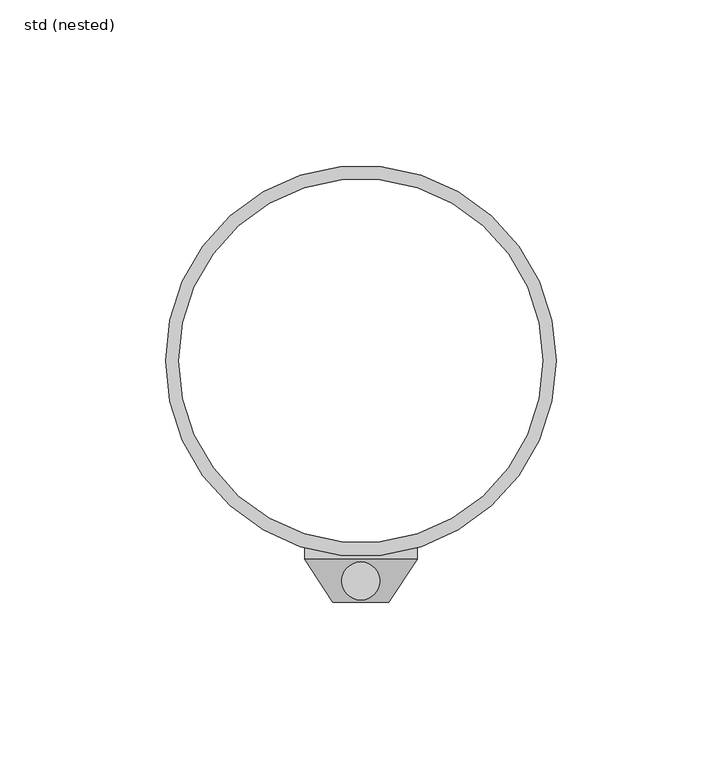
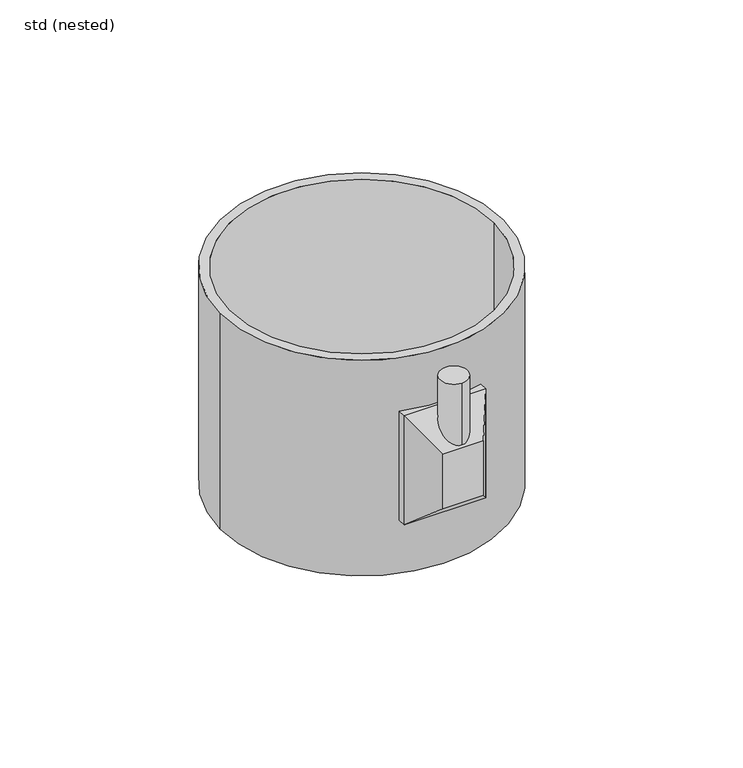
"""IFC4 building model written with IfcOpenShell, lengths in millimetres: unitary equipment geometry, ZZZ_do not use_ME_GEN_flat roof heating_ACO : std (nested)."""

import ifcopenshell
import ifcopenshell.guid

model = None  # the IFC model being written
_history = None  # IfcOwnerHistory: only IFC2X3 demands one
_inside = {}  # id of a spatial element -> (the spatial element, [elements in it])
_under = {}  # id of a project, library or spatial element -> (it, [spatial elements below it])
_declared = {}  # id of a project -> (the project, [libraries it declares])
_typed = {}  # id of a type object -> (the type object, [elements of that type])
_made_of = {}  # id of a material, layer set ... -> (it, [elements and type objects made of it])


def new_model(schema):
    """Start an empty IFC model of exactly this schema.

    Asked for "IFC4X3", IfcOpenShell would pick the latest addendum, in which some entities
    have other attributes; the version numbers below select the first issue.
    IFC2X3 requires an IfcOwnerHistory on every rooted entity: one is made here for all.
    """
    global model, _history
    if schema == "IFC4X3":
        model = ifcopenshell.file(schema_version=(4, 3, 0, 0))
    else:
        model = ifcopenshell.file(schema=schema)
    _inside.clear()
    _under.clear()
    _declared.clear()
    _typed.clear()
    _made_of.clear()
    _history = None
    if model.schema == "IFC2X3":
        org = make("IfcOrganization", Name="unknown")
        user = make(
            "IfcPersonAndOrganization",
            ThePerson=make("IfcPerson", FamilyName="unknown"),
            TheOrganization=org,
        )
        app = make(
            "IfcApplication",
            ApplicationDeveloper=org,
            Version="unknown",
            ApplicationFullName="unknown",
            ApplicationIdentifier="unknown",
        )
        _history = make(
            "IfcOwnerHistory",
            OwningUser=user,
            OwningApplication=app,
            ChangeAction="ADDED",
            CreationDate=0,
        )
    return model


def make(cls, **values):
    """One entity of the class cls with the attributes given. An attribute that is None is left unset."""
    return model.create_entity(
        cls, **{name: value for name, value in values.items() if value is not None}
    )


def rooted(cls, **values):
    """An entity with a GlobalId (a new one), such as an element, a storey or a relation."""
    return make(cls, GlobalId=ifcopenshell.guid.new(), OwnerHistory=_history, **values)


def si_unit(unit_type, name, prefix=None):
    """IfcSIUnit, for example si_unit("LENGTHUNIT", "METRE", prefix="MILLI")."""
    return make("IfcSIUnit", UnitType=unit_type, Prefix=prefix, Name=name)


def assignment(units):
    """IfcUnitAssignment: the units of a project."""
    return None if units is None else make("IfcUnitAssignment", Units=units)


def point(xyz):
    """IfcCartesianPoint."""
    return None if xyz is None else make("IfcCartesianPoint", Coordinates=xyz)


def direction(xyz):
    """IfcDirection."""
    return None if xyz is None else make("IfcDirection", DirectionRatios=xyz)


def frame(location, z_axis=None, x_axis=None):
    """IfcAxis2Placement3D, a coordinate frame: its origin and axes. An axis left out is left unset."""
    return make(
        "IfcAxis2Placement3D",
        Location=point(location),
        Axis=direction(z_axis),
        RefDirection=direction(x_axis),
    )


def frame_2d(location, x_axis=None):
    """IfcAxis2Placement2D, a coordinate frame in the plane: its origin and x axis."""
    return make(
        "IfcAxis2Placement2D", Location=point(location), RefDirection=direction(x_axis)
    )


def origin():
    """The frame at (0, 0, 0) with its axes left unset."""
    return frame((0.0, 0.0, 0.0))


def origin_2d():
    """The frame at (0, 0) in the plane with its x axis left unset."""
    return frame_2d((0.0, 0.0))


def place(relative_to, where):
    """IfcLocalPlacement: puts the frame where relative to a parent placement (None: the world)."""
    return make(
        "IfcLocalPlacement", PlacementRelTo=relative_to, RelativePlacement=where
    )


def context(
    kind, dimensions, precision=None, world=None, true_north=None, identifier=None
):
    """IfcGeometricRepresentationContext, for example the 3D "Model" context."""
    return make(
        "IfcGeometricRepresentationContext",
        ContextIdentifier=identifier,
        ContextType=kind,
        CoordinateSpaceDimension=dimensions,
        Precision=precision,
        WorldCoordinateSystem=world,
        TrueNorth=true_north,
    )


def project(units=None, contexts=None):
    """IfcProject with its units and contexts."""
    return rooted(
        "IfcProject",
        Name="project",
        RepresentationContexts=contexts,
        UnitsInContext=assignment(units),
    )


def spatial(cls, under=None, at=None, **own):
    """A site, building, storey or space (cls), placed at a placement, below another one or the project."""
    s = rooted(cls, ObjectPlacement=at, **own)
    if under is not None:
        _under.setdefault(under.id(), (under, []))[1].append(s)
    return s


def polyline(points):
    """IfcPolyline through the points."""
    return make("IfcPolyline", Points=[point(p) for p in points])


def circle_curve(where, radius):
    """IfcCircle in the frame where."""
    return make("IfcCircle", Position=where, Radius=radius)


def ellipse_curve(where, semi_axis1, semi_axis2):
    """IfcEllipse in the frame where."""
    return make(
        "IfcEllipse", Position=where, SemiAxis1=semi_axis1, SemiAxis2=semi_axis2
    )


def trimmed(basis, trim1, trim2, sense, master):
    """IfcTrimmedCurve: the piece of a basis curve between two trims."""
    return make(
        "IfcTrimmedCurve",
        BasisCurve=basis,
        Trim1=trim1,
        Trim2=trim2,
        SenseAgreement=sense,
        MasterRepresentation=master,
    )


def segment(curve, same_sense, transition):
    """IfcCompositeCurveSegment."""
    return make(
        "IfcCompositeCurveSegment",
        Transition=transition,
        SameSense=same_sense,
        ParentCurve=curve,
    )


def composite_curve(segments, self_intersect=None):
    """IfcCompositeCurve: segments joined end to end."""
    return make("IfcCompositeCurve", Segments=segments, SelfIntersect=self_intersect)


def outline(outer, holes=None, kind="AREA"):
    """IfcArbitraryClosedProfileDef: a profile drawn as a closed curve; with holes, ...WithVoids."""
    if holes is None:
        return make("IfcArbitraryClosedProfileDef", ProfileType=kind, OuterCurve=outer)
    return make(
        "IfcArbitraryProfileDefWithVoids",
        ProfileType=kind,
        OuterCurve=outer,
        InnerCurves=holes,
    )


def extrude(swept, where, along, depth):
    """IfcExtrudedAreaSolid: the profile swept, set in the frame where, extruded along a direction by depth."""
    return make(
        "IfcExtrudedAreaSolid",
        SweptArea=swept,
        Position=where,
        ExtrudedDirection=direction(along),
        Depth=depth,
    )


def shape(context_of_items, identifier, shape_type, items):
    """IfcShapeRepresentation: the items that make up one representation, for example the "Body"."""
    return make(
        "IfcShapeRepresentation",
        ContextOfItems=context_of_items,
        RepresentationIdentifier=identifier,
        RepresentationType=shape_type,
        Items=items,
    )


def source(mapping_origin, context_of_items, identifier, shape_type, items):
    """IfcRepresentationMap: a shape defined once, which mapped items show again and again."""
    return make(
        "IfcRepresentationMap",
        MappingOrigin=mapping_origin,
        MappedRepresentation=shape(context_of_items, identifier, shape_type, items),
    )


def transform(
    local_origin,
    x_axis=None,
    y_axis=None,
    z_axis=None,
    scale=None,
    scale2=None,
    scale3=None,
    uniform=True,
):
    """IfcCartesianTransformationOperator3D, or its non-uniform kind. x_axis, y_axis, z_axis: its Axis1, 2, 3."""
    if uniform:
        return make(
            "IfcCartesianTransformationOperator3D",
            Axis1=direction(x_axis),
            Axis2=direction(y_axis),
            LocalOrigin=point(local_origin),
            Scale=scale,
            Axis3=direction(z_axis),
        )
    return make(
        "IfcCartesianTransformationOperator3DnonUniform",
        Axis1=direction(x_axis),
        Axis2=direction(y_axis),
        LocalOrigin=point(local_origin),
        Scale=scale,
        Axis3=direction(z_axis),
        Scale2=scale2,
        Scale3=scale3,
    )


def mapped(mapping_source, mapping_target):
    """IfcMappedItem: shows the shape of a source again, moved by a transform."""
    return make(
        "IfcMappedItem", MappingSource=mapping_source, MappingTarget=mapping_target
    )


def made_of(thing, what):
    """Note that an element or type object is made of a material, layer set ...; save() writes the relation."""
    if what is not None:
        _made_of.setdefault(what.id(), (what, []))[1].append(thing)
    return thing


def element(
    cls,
    number,
    at=None,
    inside=None,
    cuts=None,
    type_object=None,
    material=None,
    context=None,
    identifier="Body",
    shape_type=None,
    held_by="IfcProductDefinitionShape",
    body=None,
    shapes=None,
    **own,
):
    """One element of the class cls, such as IfcWall. Its Tag is "e" and its number.

    at: its placement. inside: the storey or other place that contains it. cuts: it is an
    opening in that element (IfcRelVoidsElement). A single representation is given by context,
    identifier, shape_type and body (its items); several are given by shapes. held_by: the class
    of the entity that holds the representations. save() writes the other relations.
    """
    e = rooted(cls, Tag="e%d" % number, ObjectPlacement=at, **own)
    if body is not None:
        shapes = [shape(context, identifier, shape_type, body)]
    if shapes is not None:
        e.Representation = make(held_by, Representations=shapes)
    if inside is not None:
        _inside.setdefault(inside.id(), (inside, []))[1].append(e)
    if cuts is not None:
        rooted(
            "IfcRelVoidsElement", RelatingBuildingElement=cuts, RelatedOpeningElement=e
        )
    if type_object is not None:
        _typed.setdefault(type_object.id(), (type_object, []))[1].append(e)
    return made_of(e, material)


def aggregate(whole, parts):
    """IfcRelAggregates: a whole, such as a stair, and the parts it consists of."""
    return rooted("IfcRelAggregates", RelatingObject=whole, RelatedObjects=parts)


def save(model, path):
    """Write the relations noted so far, then the file.

    IfcRelAggregates (storeys below a building ...), IfcRelContainedInSpatialStructure (elements
    in a storey), IfcRelDefinesByType, IfcRelAssociatesMaterial and IfcRelDeclares: one each for
    every whole, place, type object, material and project.
    """
    for whole, parts in _under.values():
        aggregate(whole, parts)
    for where, things in _inside.values():
        rooted(
            "IfcRelContainedInSpatialStructure",
            RelatedElements=things,
            RelatingStructure=where,
        )
    for kind, things in _typed.values():
        rooted("IfcRelDefinesByType", RelatedObjects=things, RelatingType=kind)
    for what, things in _made_of.values():
        rooted("IfcRelAssociatesMaterial", RelatedObjects=things, RelatingMaterial=what)
    for by, libraries in _declared.values():
        rooted("IfcRelDeclares", RelatingContext=by, RelatedDefinitions=libraries)
    model.write(path)


def plane_surface(at):
    """IfcPlane: the flat surface through the origin of the frame at, square to its z axis."""
    return make("IfcPlane", Position=at)


def cylinder_surface(at, radius):
    """IfcCylindricalSurface: all points at the distance radius from the z axis of the frame at."""
    return make("IfcCylindricalSurface", Position=at, Radius=radius)


def advanced_brep(points, edges, surfaces, faces):
    """IfcAdvancedBrep: a solid bounded by faces that lie on surfaces and meet in shared edges.

    An edge is (start, end): straight between two places in points (the first is 0);
    or (start, end, curve); or (start, end, curve, False) where it runs against its curve.
    A face is (place in surfaces, loops), or (place, loops, False) where it looks against
    its surface's normal. A loop lists edges by number (the first is 1), with a minus sign
    where the edge is run from its end to its start. The first loop is the outer one.
    """
    corners = [point(p) for p in points]
    vertices = [make("IfcVertexPoint", VertexGeometry=c) for c in corners]
    made = []
    for start, end, *more in edges:
        made.append(
            make(
                "IfcEdgeCurve",
                EdgeStart=vertices[start],
                EdgeEnd=vertices[end],
                EdgeGeometry=more[0] if more else make("IfcPolyline", Points=[corners[start], corners[end]]),
                SameSense=more[1] if len(more) > 1 else True,
            )
        )
    hull = []
    for where, loops, *sense in faces:
        bounds = []
        for j, loop in enumerate(loops):
            ring = [make("IfcOrientedEdge", EdgeElement=made[abs(k) - 1], Orientation=k > 0) for k in loop]
            bounds.append(
                make(
                    "IfcFaceOuterBound" if j == 0 else "IfcFaceBound",
                    Bound=make("IfcEdgeLoop", EdgeList=ring),
                    Orientation=True,
                )
            )
        hull.append(make("IfcAdvancedFace", Bounds=bounds, FaceSurface=surfaces[where], SameSense=sense[0] if sense else True))
    return make("IfcAdvancedBrep", Outer=make("IfcClosedShell", CfsFaces=hull))


def std_nested_20acca22(model_context):
    return source(origin(), model_context, "Body", "SolidModel", [
        advanced_brep(
        [(8.5, -73.0, -35.5), (-8.5, -73.0, -35.5), (-8.5, -73.0, -59.5), (8.5, -73.0, -59.5), (17.0, -60.0, -23.5), (17.0, -60.0, -71.5), (-17.0, -60.0, -71.5), (-17.0, -60.0, -23.5), (0.0, -72.25, -34.8076923), (0.0, -60.75, -24.1923077), (0.0, -60.75, -7.5), (0.0, -72.25, -7.5)],
        [
            (0, 1),
            (1, 2),
            (2, 3),
            (3, 0),
            (4, 5),
            (5, 6),
            (6, 7),
            (7, 4),
            (3, 5),
            (4, 0),
            (2, 6),
            (1, 7),
            (8, 9, ellipse_curve(frame((0.0, -66.5, -29.5), z_axis=(0.0, 0.6782801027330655, -0.7348034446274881), x_axis=(0.0, -0.7348034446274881, -0.6782801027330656)), 7.8252219, 5.75)),
            (9, 8, ellipse_curve(frame((0.0, -66.5, -29.5), z_axis=(0.0, 0.6782801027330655, -0.7348034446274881), x_axis=(0.0, -0.7348034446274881, -0.6782801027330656)), 7.8252219, 5.75)),
            (10, 11, circle_curve(frame((0.0, -66.5, -7.5), z_axis=(0.0, 0.0, 1.0), x_axis=(0.0, -1.0, 0.0)), 5.75)),
            (11, 10, circle_curve(frame((0.0, -66.5, -7.5), z_axis=(0.0, 0.0, 1.0), x_axis=(0.0, -1.0, 0.0)), 5.75)),
            (10, 9),
            (8, 11),
        ],
        [
            plane_surface(frame((0.0, -73.0, -47.5), z_axis=(0.0, -1.0, 0.0), x_axis=(0.0, 0.0, -1.0))),
            plane_surface(frame((0.0, -60.0, -47.5), z_axis=(0.0, 1.0, 0.0), x_axis=(0.0, 0.0, -1.0))),
            plane_surface(frame((17.0, -60.0, -47.5), z_axis=(0.8369696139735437, -0.5472493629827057, 0.0), x_axis=(0.0, 0.0, 1.0))),
            plane_surface(frame((0.0, -60.0, -71.5), z_axis=(0.0, -0.6782801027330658, -0.7348034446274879), x_axis=(1.0, 0.0, 0.0))),
            plane_surface(frame((-17.0, -60.0, -47.5), z_axis=(-0.8369696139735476, -0.5472493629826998, 0.0), x_axis=(0.0, 0.0, -1.0))),
            plane_surface(frame((0.0, -60.0, -23.5), z_axis=(0.0, -0.6782801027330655, 0.7348034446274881), x_axis=(-1.0, 0.0, 0.0))),
            plane_surface(frame((0.0, -66.5, -7.5), z_axis=(0.0, 0.0, 1.0), x_axis=(1.0, 0.0, 0.0))),
            cylinder_surface(frame((0.0, -66.5, -47.5), z_axis=(0.0, 0.0, -1.0), x_axis=(0.0, -1.0, 0.0)), 5.75),
        ],
        [
            (0, [[1, 2, 3, 4]]),
            (1, [[5, 6, 7, 8]]),
            (2, [[-4, 9, -5, 10]]),
            (3, [[-3, 11, -6, -9]]),
            (4, [[-2, 12, -7, -11]]),
            (5, [[-1, -10, -8, -12], [13, 14]]),
            (6, [[15, 16]]),
            (7, [[-15, 17, -13, 18]]),
            (7, [[-16, -18, -14, -17]]),
        ],
    ),
        extrude(outline(composite_curve([segment(polyline([(17.0, -60.0), (-17.0, -60.0), (-17.0, -56.4977876)]), True, "CONTINUOUS"), segment(trimmed(circle_curve(origin_2d(), 59.0), [point((-17.0, -56.4977876))], [point((17.0, -56.4977876))], True, "CARTESIAN"), True, "CONTINUOUS"), segment(polyline([(17.0, -56.4977876), (17.0, -60.0)]), True, "CONTINUOUS")], self_intersect=False)), frame((0.0, 0.0, -71.5), z_axis=(0.0, 0.0, 1.0), x_axis=(1.0, 0.0, 0.0)), (0.0, 0.0, 1.0), 48.0),
        extrude(outline(composite_curve([segment(trimmed(circle_curve(origin_2d(), 59.0), [point((-59.0, 0.0))], [point((59.0, 0.0))], False, "CARTESIAN"), True, "CONTINUOUS"), segment(trimmed(circle_curve(origin_2d(), 59.0), [point((59.0, 0.0))], [point((-59.0, 0.0))], False, "CARTESIAN"), True, "CONTINUOUS")], self_intersect=False), holes=[composite_curve([segment(trimmed(circle_curve(origin_2d(), 55.0), [point((-55.0, 0.0))], [point((55.0, 0.0))], True, "CARTESIAN"), True, "CONTINUOUS"), segment(trimmed(circle_curve(origin_2d(), 55.0), [point((55.0, 0.0))], [point((-55.0, 0.0))], True, "CARTESIAN"), True, "CONTINUOUS")], self_intersect=False)]), frame((0.0, 0.0, -95.0), z_axis=(0.0, 0.0, 1.0), x_axis=(1.0, 0.0, 0.0)), (0.0, 0.0, 1.0), 95.0),
    ])


if __name__ == "__main__":
    model = new_model("IFC4")
    model_context = context("Model", 3, world=origin())
    ifc_project = project(units=[si_unit("LENGTHUNIT", "METRE", prefix="MILLI")], contexts=[model_context])
    site = spatial("IfcSite", under=ifc_project)
    building = spatial("IfcBuilding", under=site)
    placement = place(None, origin())
    std_nested_shape = std_nested_20acca22(model_context)
    element("IfcUnitaryEquipment", 1, ObjectType="ZZZ_do not use_ME_GEN_flat roof heating_ACO : std (nested)", at=placement, inside=building, context=model_context, shape_type="MappedRepresentation", body=[
        mapped(std_nested_shape, transform((0.0, 0.0, 0.0), x_axis=(1.0, 0.0, 0.0), y_axis=(0.0, 1.0, 0.0), z_axis=(0.0, 0.0, 1.0))),
    ])
    save(model, "model.ifc")
